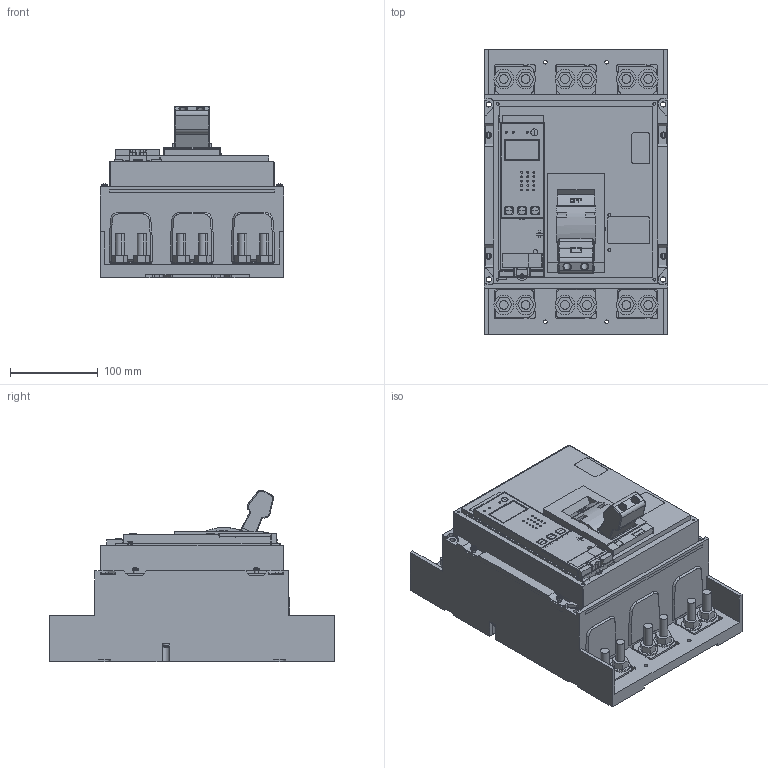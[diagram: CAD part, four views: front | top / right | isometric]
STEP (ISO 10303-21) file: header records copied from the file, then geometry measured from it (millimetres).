
FILE_DESCRIPTION((''),'2;1');
FILE_NAME('1649237663086_ASM','2022-04-06T15:04:47',('SESA621925'),('Schneider-Electric'),'CREO PARAMETRIC BY PTC INC, 2019471','CREO PARAMETRIC BY PTC INC, 2019471','');
FILE_SCHEMA(('AP242_MANAGED_MODEL_BASED_3D_ENGINEERING_MIM_LF { 1 0 10303 442 1 1 4 }'));
Products named in the file (12): EMPTYNODE_1649237663134_ASM; C063N320FM; C063N320FM-3D_ASM; COVER-ASSY-C063N320FM_C_1; COVER-ASSY-C063N320FM-3D_ASM; HANDLE-ASSY-C063N320FM; HANDLE-ASSY-C063N320FM-3D_ASM; 35068; 0444320800_C; 35068_ASM; 35068-3D_ASM; 1649237663086_ASM
Assembly tree (11 placements, depth 4):
  1649237663086_ASM
    EMPTYNODE_1649237663134_ASM
    C063N320FM-3D_ASM
      C063N320FM
    COVER-ASSY-C063N320FM-3D_ASM
      COVER-ASSY-C063N320FM_C_1
    HANDLE-ASSY-C063N320FM-3D_ASM
      HANDLE-ASSY-C063N320FM
    35068-3D_ASM
      35068_ASM
        35068
        0444320800_C
Bounding box: 210 x 326.53 x 196.18 mm (x, y, z)
Volume: 5439882.1 mm3; surface area: 557156 mm2
Topology: 11 solids, 13 shells, 2456 faces, 6745 edges, 4474 vertices
Faces by surface type: plane 1744, cylinder 578, bspline 42, torus 38, extrusion 26, cone 20, sphere 8
Entity records: 113379 total; most frequent: CARTESIAN_POINT 17117, ORIENTED_EDGE 13410, DIRECTION 12755, PRESENTATION_STYLE_ASSIGNMENT 7707, STYLED_ITEM 6774, CURVE_STYLE 6748, EDGE_CURVE 6705, VECTOR 5079
